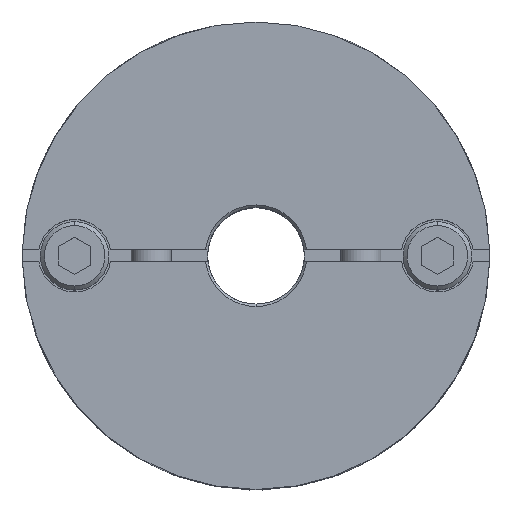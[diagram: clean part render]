
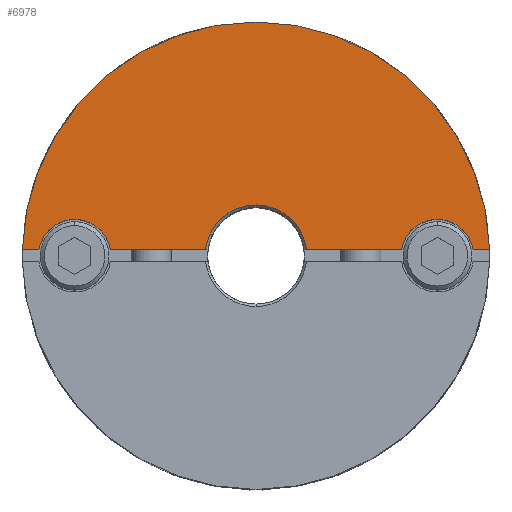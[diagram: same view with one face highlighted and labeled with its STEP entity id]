
A CAD part, top view. The second image highlights one B-rep face of the part: STEP entity #6978.
In plain terms, the highlighted planar face has unit normal (0, 0, 1).
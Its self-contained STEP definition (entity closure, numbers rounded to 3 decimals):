
#605=CARTESIAN_POINT('',(0.,29.,22.4));
#606=VERTEX_POINT('',#605);
#690=CARTESIAN_POINT('',(-28.99,0.75,22.4));
#691=VERTEX_POINT('',#690);
#698=CARTESIAN_POINT('',(0.0,0.,22.4));
#699=DIRECTION('',(0.0,0.0,-1.0));
#700=DIRECTION('',(0.0,1.0,0.0));
#701=AXIS2_PLACEMENT_3D('',#698,#699,#700);
#702=CIRCLE('',#701,29.0);
#703=EDGE_CURVE('',#691,#606,#702,.T.);
#1021=CARTESIAN_POINT('',(0.,6.3,22.4));
#1022=VERTEX_POINT('',#1021);
#1029=CARTESIAN_POINT('',(-6.255,0.75,22.4));
#1030=VERTEX_POINT('',#1029);
#1031=CARTESIAN_POINT('',(0.0,0.,22.4));
#1032=DIRECTION('',(0.0,0.0,1.0));
#1033=DIRECTION('',(0.0,-1.0,0.0));
#1034=AXIS2_PLACEMENT_3D('',#1031,#1032,#1033);
#1035=CIRCLE('',#1034,6.3);
#1036=EDGE_CURVE('',#1022,#1030,#1035,.T.);
#1099=CARTESIAN_POINT('',(-22.5,4.5,22.4));
#1100=VERTEX_POINT('',#1099);
#1109=CARTESIAN_POINT('',(-26.937,0.75,22.4));
#1110=VERTEX_POINT('',#1109);
#1111=CARTESIAN_POINT('',(-22.5,0.,22.4));
#1112=DIRECTION('',(0.0,0.0,-1.0));
#1113=DIRECTION('',(0.0,1.0,0.0));
#1114=AXIS2_PLACEMENT_3D('',#1111,#1112,#1113);
#1115=CIRCLE('',#1114,4.5);
#1116=EDGE_CURVE('',#1110,#1100,#1115,.T.);
#1183=CARTESIAN_POINT('',(22.5,4.5,22.4));
#1184=VERTEX_POINT('',#1183);
#1193=CARTESIAN_POINT('',(18.063,0.75,22.4));
#1194=VERTEX_POINT('',#1193);
#1195=CARTESIAN_POINT('',(22.5,0.,22.4));
#1196=DIRECTION('',(0.0,0.0,-1.0));
#1197=DIRECTION('',(0.0,1.0,0.0));
#1198=AXIS2_PLACEMENT_3D('',#1195,#1196,#1197);
#1199=CIRCLE('',#1198,4.5);
#1200=EDGE_CURVE('',#1194,#1184,#1199,.T.);
#6654=CARTESIAN_POINT('',(26.937,0.75,22.4));
#6655=VERTEX_POINT('',#6654);
#6662=CARTESIAN_POINT('',(22.5,0.,22.4));
#6663=DIRECTION('',(0.0,0.0,-1.0));
#6664=DIRECTION('',(0.0,1.0,0.0));
#6665=AXIS2_PLACEMENT_3D('',#6662,#6663,#6664);
#6666=CIRCLE('',#6665,4.5);
#6667=EDGE_CURVE('',#1184,#6655,#6666,.T.);
#6720=CARTESIAN_POINT('',(-18.063,0.75,22.4));
#6721=VERTEX_POINT('',#6720);
#6728=CARTESIAN_POINT('',(-22.5,0.,22.4));
#6729=DIRECTION('',(0.0,0.0,-1.0));
#6730=DIRECTION('',(0.0,1.0,0.0));
#6731=AXIS2_PLACEMENT_3D('',#6728,#6729,#6730);
#6732=CIRCLE('',#6731,4.5);
#6733=EDGE_CURVE('',#1100,#6721,#6732,.T.);
#6752=CARTESIAN_POINT('',(28.99,0.75,22.4));
#6753=VERTEX_POINT('',#6752);
#6760=CARTESIAN_POINT('',(26.937,0.75,22.4));
#6761=DIRECTION('',(1.0,0.0,0.0));
#6762=VECTOR('',#6761,2.053);
#6763=LINE('',#6760,#6762);
#6764=EDGE_CURVE('',#6655,#6753,#6763,.T.);
#6775=CARTESIAN_POINT('',(6.255,0.75,22.4));
#6776=VERTEX_POINT('',#6775);
#6777=CARTESIAN_POINT('',(6.255,0.75,22.4));
#6778=DIRECTION('',(1.0,0.0,0.0));
#6779=VECTOR('',#6778,11.808);
#6780=LINE('',#6777,#6779);
#6781=EDGE_CURVE('',#6776,#1194,#6780,.T.);
#6937=CARTESIAN_POINT('',(0.,2.636,22.4));
#6938=DIRECTION('',(0.0,0.0,1.0));
#6939=DIRECTION('',(0.0,1.0,0.0));
#6940=AXIS2_PLACEMENT_3D('',#6937,#6938,#6939);
#6941=PLANE('',#6940);
#6942=ORIENTED_EDGE('',*,*,#1200,.T.);
#6943=ORIENTED_EDGE('',*,*,#6667,.T.);
#6944=ORIENTED_EDGE('',*,*,#6764,.T.);
#6945=CARTESIAN_POINT('',(0.0,0.,22.4));
#6946=DIRECTION('',(0.0,0.0,-1.0));
#6947=DIRECTION('',(0.0,1.0,0.0));
#6948=AXIS2_PLACEMENT_3D('',#6945,#6946,#6947);
#6949=CIRCLE('',#6948,29.0);
#6950=EDGE_CURVE('',#606,#6753,#6949,.T.);
#6951=ORIENTED_EDGE('',*,*,#6950,.F.);
#6952=ORIENTED_EDGE('',*,*,#703,.F.);
#6953=CARTESIAN_POINT('',(-28.99,0.75,22.4));
#6954=DIRECTION('',(1.0,0.0,0.0));
#6955=VECTOR('',#6954,2.053);
#6956=LINE('',#6953,#6955);
#6957=EDGE_CURVE('',#691,#1110,#6956,.T.);
#6958=ORIENTED_EDGE('',*,*,#6957,.T.);
#6959=ORIENTED_EDGE('',*,*,#1116,.T.);
#6960=ORIENTED_EDGE('',*,*,#6733,.T.);
#6961=CARTESIAN_POINT('',(-18.063,0.75,22.4));
#6962=DIRECTION('',(1.0,0.0,0.0));
#6963=VECTOR('',#6962,11.808);
#6964=LINE('',#6961,#6963);
#6965=EDGE_CURVE('',#6721,#1030,#6964,.T.);
#6966=ORIENTED_EDGE('',*,*,#6965,.T.);
#6967=ORIENTED_EDGE('',*,*,#1036,.F.);
#6968=CARTESIAN_POINT('',(0.0,0.,22.4));
#6969=DIRECTION('',(0.0,0.0,1.0));
#6970=DIRECTION('',(0.0,-1.0,0.0));
#6971=AXIS2_PLACEMENT_3D('',#6968,#6969,#6970);
#6972=CIRCLE('',#6971,6.3);
#6973=EDGE_CURVE('',#6776,#1022,#6972,.T.);
#6974=ORIENTED_EDGE('',*,*,#6973,.F.);
#6975=ORIENTED_EDGE('',*,*,#6781,.T.);
#6976=EDGE_LOOP('',(#6942,#6943,#6944,#6951,#6952,#6958,#6959,#6960,#6966,#6967,#6974,#6975));
#6977=FACE_OUTER_BOUND('',#6976,.T.);
#6978=ADVANCED_FACE('',(#6977),#6941,.T.);
